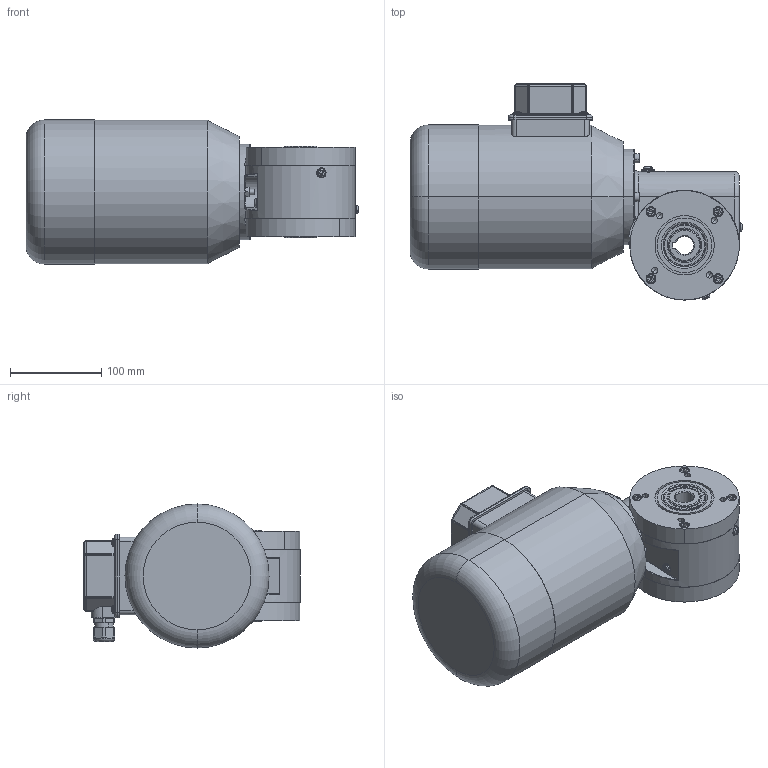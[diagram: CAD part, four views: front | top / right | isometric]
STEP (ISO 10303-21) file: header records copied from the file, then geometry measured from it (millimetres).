
FILE_DESCRIPTION (( 'STEP AP214' ), '1' );
FILE_NAME ('SN8BFH_550W_1400Upm_Drehstrom-Motor_D.STEP', '2021-09-21T06:40:10', ( '' ), ( '' ), 'SwSTEP 2.0', 'SolidWorks 2019', '' );
FILE_SCHEMA (( 'AUTOMOTIVE_DESIGN' ));
Length unit declared in the file: millimetre
Products named in the file (13): 08-M-163 I 550W_1400Upm; NBR_WDR_35x47x7; U-Seal Ring Ø5; Kupferscheibe Ø6x10x1; socket set screw flat point_din_DIN 913 - M6 x 25-C; 08B-G-003_3D_Export; SN8BFH_3D_Export; 08BFH-D-008_3D_Export; hex nut style 1 gradeab_din_Hexagon Nut ISO 4032 - M6 - D - C; SN8BFH_550W_1400Upm_Drehstrom-Motor_D; slotted pan head screw_din_DIN EN ISO 1580 - M5 x 6 - 6C; socket head cap screw_din_DIN 912 M6 x 20 --- 20C; 08FH-W-001_3D_Export
Assembly tree (37 placements, depth 3):
  SN8BFH_550W_1400Upm_Drehstrom-Motor_D
    SN8BFH_3D_Export
      08B-G-003_3D_Export
      08FH-W-001_3D_Export
      08BFH-D-008_3D_Export  x2
      NBR_WDR_35x47x7  x2
      socket head cap screw_din_DIN 912 M6 x 20 --- 20C  x11
      slotted pan head screw_din_DIN EN ISO 1580 - M5 x 6 - 6C  x4
      socket set screw flat point_din_DIN 913 - M6 x 25-C
      hex nut style 1 gradeab_din_Hexagon Nut ISO 4032 - M6 - D - C
      Kupferscheibe Ø6x10x1  x8
      U-Seal Ring Ø5  x4
    08-M-163 I 550W_1400Upm
Bounding box: 364 x 237 x 158 mm (x, y, z)
Volume: 5841350.9 mm3; surface area: 388654.7 mm2
Topology: 37 solids, 37 shells, 1393 faces, 3410 edges, 2114 vertices
Faces by surface type: plane 510, cylinder 472, cone 231, torus 120, bspline 36, sphere 24
Entity records: 32200 total; most frequent: CARTESIAN_POINT 8609, DIRECTION 4864, ORIENTED_EDGE 4832, EDGE_CURVE 2416, AXIS2_PLACEMENT_3D 1927, VERTEX_POINT 1536, EDGE_LOOP 1066, VECTOR 1010
